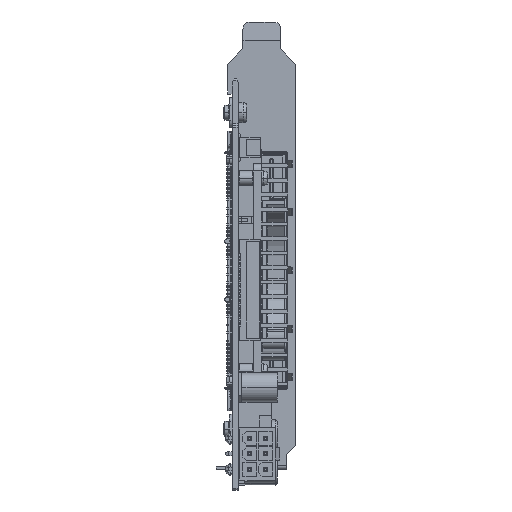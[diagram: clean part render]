
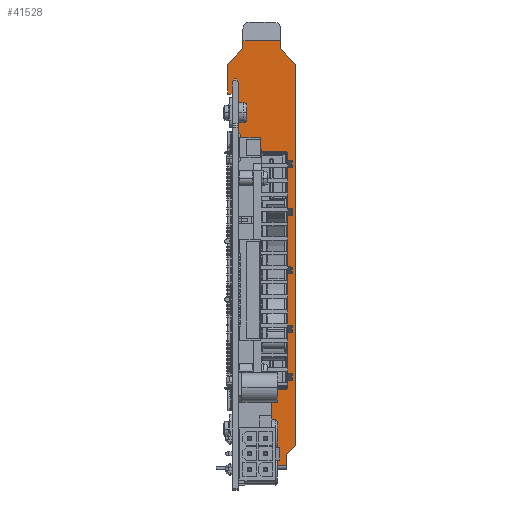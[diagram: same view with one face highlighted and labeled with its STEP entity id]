
A CAD part, front view. The second image highlights one B-rep face of the part: STEP entity #41528.
In plain terms, the highlighted planar face has unit normal (0, -1, 0).
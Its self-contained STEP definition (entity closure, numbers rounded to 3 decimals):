
#2202=DIRECTION('',(0.,0.,1.));
#2203=VECTOR('',#2202,1.);
#2204=CARTESIAN_POINT('',(0.2,84.925,50.275));
#2205=LINE('',#2204,#2203);
#2206=DIRECTION('',(0.707,0.,0.707));
#2207=VECTOR('',#2206,5.812);
#2208=CARTESIAN_POINT('',(-1.24,84.925,59.355));
#2209=LINE('',#2208,#2207);
#2210=DIRECTION('',(0.707,0.,-0.707));
#2211=VECTOR('',#2210,5.812);
#2212=CARTESIAN_POINT('',(13.07,84.925,63.465));
#2213=LINE('',#2212,#2211);
#2214=DIRECTION('',(-0.707,0.,-0.707));
#2215=VECTOR('',#2214,3.592);
#2216=CARTESIAN_POINT('',(17.18,84.925,-43.545));
#2217=LINE('',#2216,#2215);
#2218=CARTESIAN_POINT('',(1.55,84.925,-28.181));
#2219=DIRECTION('',(0.,-1.,0.));
#2220=DIRECTION('',(-1.,0.,0.));
#2221=AXIS2_PLACEMENT_3D('',#2218,#2219,#2220);
#2223=CARTESIAN_POINT('',(14.6,84.925,-28.181));
#2224=DIRECTION('',(0.,-1.,0.));
#2225=DIRECTION('',(0.,0.,-1.));
#2226=AXIS2_PLACEMENT_3D('',#2223,#2224,#2225);
#2228=CARTESIAN_POINT('',(14.6,84.925,35.569));
#2229=DIRECTION('',(0.,-1.,0.));
#2230=DIRECTION('',(1.,0.,0.));
#2231=AXIS2_PLACEMENT_3D('',#2228,#2229,#2230);
#2233=CARTESIAN_POINT('',(1.55,84.925,35.569));
#2234=DIRECTION('',(0.,-1.,0.));
#2235=DIRECTION('',(0.,0.,1.));
#2236=AXIS2_PLACEMENT_3D('',#2233,#2234,#2235);
#2243=DIRECTION('',(0.,0.,-1.));
#2244=VECTOR('',#2243,5.96);
#2245=CARTESIAN_POINT('',(0.2,84.925,-43.125));
#2246=LINE('',#2245,#2244);
#2350=DIRECTION('',(1.,0.,0.));
#2351=VECTOR('',#2350,14.44);
#2352=CARTESIAN_POINT('',(0.2,84.925,-49.085));
#2353=LINE('',#2352,#2351);
#2363=DIRECTION('',(0.,0.,1.));
#2364=VECTOR('',#2363,3.);
#2365=CARTESIAN_POINT('',(14.64,84.925,-49.085));
#2366=LINE('',#2365,#2364);
#2388=DIRECTION('',(0.,0.,1.));
#2389=VECTOR('',#2388,102.9);
#2390=CARTESIAN_POINT('',(17.18,84.925,-43.545));
#2391=LINE('',#2390,#2389);
#2404=DIRECTION('',(0.,0.,1.));
#2405=VECTOR('',#2404,2.165);
#2406=CARTESIAN_POINT('',(13.07,84.925,63.465));
#2407=LINE('',#2406,#2405);
#2449=DIRECTION('',(-1.,0.,0.));
#2450=VECTOR('',#2449,10.2);
#2451=CARTESIAN_POINT('',(13.07,84.925,65.63));
#2452=LINE('',#2451,#2450);
#2470=DIRECTION('',(0.,0.,-1.));
#2471=VECTOR('',#2470,2.165);
#2472=CARTESIAN_POINT('',(2.87,84.925,65.63));
#2473=LINE('',#2472,#2471);
#2550=DIRECTION('',(0.,0.,-1.));
#2551=VECTOR('',#2550,8.08);
#2552=CARTESIAN_POINT('',(-1.24,84.925,59.355));
#2553=LINE('',#2552,#2551);
#2554=DIRECTION('',(1.,0.,0.));
#2555=VECTOR('',#2554,1.44);
#2556=CARTESIAN_POINT('',(-1.24,84.925,51.275));
#2557=LINE('',#2556,#2555);
#2570=DIRECTION('',(0.,0.,-1.));
#2571=VECTOR('',#2570,1.);
#2572=CARTESIAN_POINT('',(0.2,84.925,42.275));
#2573=LINE('',#2572,#2571);
#2595=DIRECTION('',(-1.,0.,0.));
#2596=VECTOR('',#2595,0.44);
#2597=CARTESIAN_POINT('',(0.2,84.925,41.275));
#2598=LINE('',#2597,#2596);
#2802=DIRECTION('',(1.,0.,0.));
#2803=VECTOR('',#2802,0.44);
#2804=CARTESIAN_POINT('',(-0.24,84.925,-34.125));
#2805=LINE('',#2804,#2803);
#2814=DIRECTION('',(0.,0.,-1.));
#2815=VECTOR('',#2814,75.4);
#2816=CARTESIAN_POINT('',(-0.24,84.925,41.275));
#2817=LINE('',#2816,#2815);
#2818=DIRECTION('',(0.,0.,-1.));
#2819=VECTOR('',#2818,1.);
#2820=CARTESIAN_POINT('',(0.2,84.925,-34.125));
#2821=LINE('',#2820,#2819);
#2848=DIRECTION('',(0.,0.,-1.));
#2849=VECTOR('',#2848,8.);
#2850=CARTESIAN_POINT('',(0.2,84.925,-35.125));
#2851=LINE('',#2850,#2849);
#3072=DIRECTION('',(0.,0.,-1.));
#3073=VECTOR('',#3072,8.);
#3074=CARTESIAN_POINT('',(0.2,84.925,50.275));
#3075=LINE('',#3074,#3073);
#3476=DIRECTION('',(-1.,0.,0.));
#3477=VECTOR('',#3476,13.05);
#3478=CARTESIAN_POINT('',(14.6,84.925,-28.381));
#3479=LINE('',#3478,#3477);
#3496=DIRECTION('',(0.,0.,-1.));
#3497=VECTOR('',#3496,63.75);
#3498=CARTESIAN_POINT('',(14.8,84.925,35.569));
#3499=LINE('',#3498,#3497);
#3512=DIRECTION('',(1.,0.,0.));
#3513=VECTOR('',#3512,13.05);
#3514=CARTESIAN_POINT('',(1.55,84.925,35.769));
#3515=LINE('',#3514,#3513);
#3520=DIRECTION('',(0.,0.,1.));
#3521=VECTOR('',#3520,63.75);
#3522=CARTESIAN_POINT('',(1.35,84.925,-28.181));
#3523=LINE('',#3522,#3521);
#29748=CARTESIAN_POINT('',(0.2,84.925,42.275));
#29749=VERTEX_POINT('',#29748);
#29764=CARTESIAN_POINT('',(0.2,84.925,50.275));
#29766=VERTEX_POINT('',#29764);
#29768=CARTESIAN_POINT('',(0.2,84.925,51.275));
#29769=VERTEX_POINT('',#29768);
#29772=CARTESIAN_POINT('',(-1.24,84.925,59.355));
#29773=CARTESIAN_POINT('',(2.87,84.925,63.465));
#29774=VERTEX_POINT('',#29772);
#29775=VERTEX_POINT('',#29773);
#29776=CARTESIAN_POINT('',(13.07,84.925,63.465));
#29777=CARTESIAN_POINT('',(13.07,84.925,65.63));
#29778=VERTEX_POINT('',#29776);
#29779=VERTEX_POINT('',#29777);
#29780=CARTESIAN_POINT('',(17.18,84.925,59.355));
#29781=VERTEX_POINT('',#29780);
#29782=CARTESIAN_POINT('',(17.18,84.925,-43.545));
#29783=CARTESIAN_POINT('',(14.64,84.925,-46.085));
#29784=VERTEX_POINT('',#29782);
#29785=VERTEX_POINT('',#29783);
#29786=CARTESIAN_POINT('',(0.2,84.925,-49.085));
#29787=CARTESIAN_POINT('',(14.64,84.925,-49.085));
#29788=VERTEX_POINT('',#29786);
#29789=VERTEX_POINT('',#29787);
#29790=CARTESIAN_POINT('',(1.35,84.925,-28.181));
#29791=CARTESIAN_POINT('',(1.55,84.925,-28.381));
#29792=VERTEX_POINT('',#29790);
#29793=VERTEX_POINT('',#29791);
#29794=CARTESIAN_POINT('',(14.6,84.925,-28.381));
#29795=CARTESIAN_POINT('',(14.8,84.925,-28.181));
#29796=VERTEX_POINT('',#29794);
#29797=VERTEX_POINT('',#29795);
#29798=CARTESIAN_POINT('',(14.8,84.925,35.569));
#29799=CARTESIAN_POINT('',(14.6,84.925,35.769));
#29800=VERTEX_POINT('',#29798);
#29801=VERTEX_POINT('',#29799);
#29802=CARTESIAN_POINT('',(1.55,84.925,35.769));
#29803=CARTESIAN_POINT('',(1.35,84.925,35.569));
#29804=VERTEX_POINT('',#29802);
#29805=VERTEX_POINT('',#29803);
#29812=CARTESIAN_POINT('',(0.2,84.925,-43.125));
#29813=VERTEX_POINT('',#29812);
#29898=CARTESIAN_POINT('',(2.87,84.925,65.63));
#29899=VERTEX_POINT('',#29898);
#29921=CARTESIAN_POINT('',(-1.24,84.925,51.275));
#29923=VERTEX_POINT('',#29921);
#29924=CARTESIAN_POINT('',(0.2,84.925,41.275));
#29925=VERTEX_POINT('',#29924);
#29932=CARTESIAN_POINT('',(-0.24,84.925,41.275));
#29933=VERTEX_POINT('',#29932);
#30022=CARTESIAN_POINT('',(-0.24,84.925,-34.125));
#30023=VERTEX_POINT('',#30022);
#30024=CARTESIAN_POINT('',(0.2,84.925,-34.125));
#30025=VERTEX_POINT('',#30024);
#30028=CARTESIAN_POINT('',(0.2,84.925,-35.125));
#30029=VERTEX_POINT('',#30028);
#41464=CARTESIAN_POINT('',(7.97,84.925,8.273));
#41465=DIRECTION('',(0.,1.,0.));
#41466=DIRECTION('',(-1.,0.,0.));
#41467=AXIS2_PLACEMENT_3D('',#41464,#41465,#41466);
#41468=PLANE('',#41467);
#41470=ORIENTED_EDGE('',*,*,#41469,.F.);
#41472=ORIENTED_EDGE('',*,*,#41471,.F.);
#41474=ORIENTED_EDGE('',*,*,#41473,.F.);
#41476=ORIENTED_EDGE('',*,*,#41475,.F.);
#41478=ORIENTED_EDGE('',*,*,#41477,.F.);
#41480=ORIENTED_EDGE('',*,*,#41479,.F.);
#41482=ORIENTED_EDGE('',*,*,#41481,.F.);
#41484=ORIENTED_EDGE('',*,*,#41483,.F.);
#41485=ORIENTED_EDGE('',*,*,#41454,.T.);
#41487=ORIENTED_EDGE('',*,*,#41486,.F.);
#41489=ORIENTED_EDGE('',*,*,#41488,.F.);
#41491=ORIENTED_EDGE('',*,*,#41490,.T.);
#41493=ORIENTED_EDGE('',*,*,#41492,.F.);
#41495=ORIENTED_EDGE('',*,*,#41494,.F.);
#41497=ORIENTED_EDGE('',*,*,#41496,.F.);
#41499=ORIENTED_EDGE('',*,*,#41498,.T.);
#41501=ORIENTED_EDGE('',*,*,#41500,.F.);
#41503=ORIENTED_EDGE('',*,*,#41502,.T.);
#41505=ORIENTED_EDGE('',*,*,#41504,.F.);
#41507=ORIENTED_EDGE('',*,*,#41506,.F.);
#41508=EDGE_LOOP('',(#41470,#41472,#41474,#41476,#41478,#41480,#41482,#41484,
#41485,#41487,#41489,#41491,#41493,#41495,#41497,#41499,#41501,#41503,#41505,
#41507));
#41509=FACE_OUTER_BOUND('',#41508,.F.);
#41511=ORIENTED_EDGE('',*,*,#41510,.F.);
#41513=ORIENTED_EDGE('',*,*,#41512,.T.);
#41515=ORIENTED_EDGE('',*,*,#41514,.F.);
#41517=ORIENTED_EDGE('',*,*,#41516,.T.);
#41519=ORIENTED_EDGE('',*,*,#41518,.F.);
#41521=ORIENTED_EDGE('',*,*,#41520,.T.);
#41523=ORIENTED_EDGE('',*,*,#41522,.F.);
#41525=ORIENTED_EDGE('',*,*,#41524,.T.);
#41526=EDGE_LOOP('',(#41511,#41513,#41515,#41517,#41519,#41521,#41523,#41525));
#41527=FACE_BOUND('',#41526,.F.);
#41528=ADVANCED_FACE('',(#41509,#41527),#41468,.F.);
#2222=CIRCLE('',#2221,0.2);
#2227=CIRCLE('',#2226,0.2);
#2232=CIRCLE('',#2231,0.2);
#2237=CIRCLE('',#2236,0.2);
#41454=EDGE_CURVE('',#29766,#29769,#2205,.T.);
#41469=EDGE_CURVE('',#29813,#29788,#2246,.T.);
#41471=EDGE_CURVE('',#30029,#29813,#2851,.T.);
#41473=EDGE_CURVE('',#30025,#30029,#2821,.T.);
#41475=EDGE_CURVE('',#30023,#30025,#2805,.T.);
#41477=EDGE_CURVE('',#29933,#30023,#2817,.T.);
#41479=EDGE_CURVE('',#29925,#29933,#2598,.T.);
#41481=EDGE_CURVE('',#29749,#29925,#2573,.T.);
#41483=EDGE_CURVE('',#29766,#29749,#3075,.T.);
#41486=EDGE_CURVE('',#29923,#29769,#2557,.T.);
#41488=EDGE_CURVE('',#29774,#29923,#2553,.T.);
#41490=EDGE_CURVE('',#29774,#29775,#2209,.T.);
#41492=EDGE_CURVE('',#29899,#29775,#2473,.T.);
#41494=EDGE_CURVE('',#29779,#29899,#2452,.T.);
#41496=EDGE_CURVE('',#29778,#29779,#2407,.T.);
#41498=EDGE_CURVE('',#29778,#29781,#2213,.T.);
#41500=EDGE_CURVE('',#29784,#29781,#2391,.T.);
#41502=EDGE_CURVE('',#29784,#29785,#2217,.T.);
#41504=EDGE_CURVE('',#29789,#29785,#2366,.T.);
#41506=EDGE_CURVE('',#29788,#29789,#2353,.T.);
#41510=EDGE_CURVE('',#29792,#29805,#3523,.T.);
#41512=EDGE_CURVE('',#29792,#29793,#2222,.T.);
#41514=EDGE_CURVE('',#29796,#29793,#3479,.T.);
#41516=EDGE_CURVE('',#29796,#29797,#2227,.T.);
#41518=EDGE_CURVE('',#29800,#29797,#3499,.T.);
#41520=EDGE_CURVE('',#29800,#29801,#2232,.T.);
#41522=EDGE_CURVE('',#29804,#29801,#3515,.T.);
#41524=EDGE_CURVE('',#29804,#29805,#2237,.T.);
